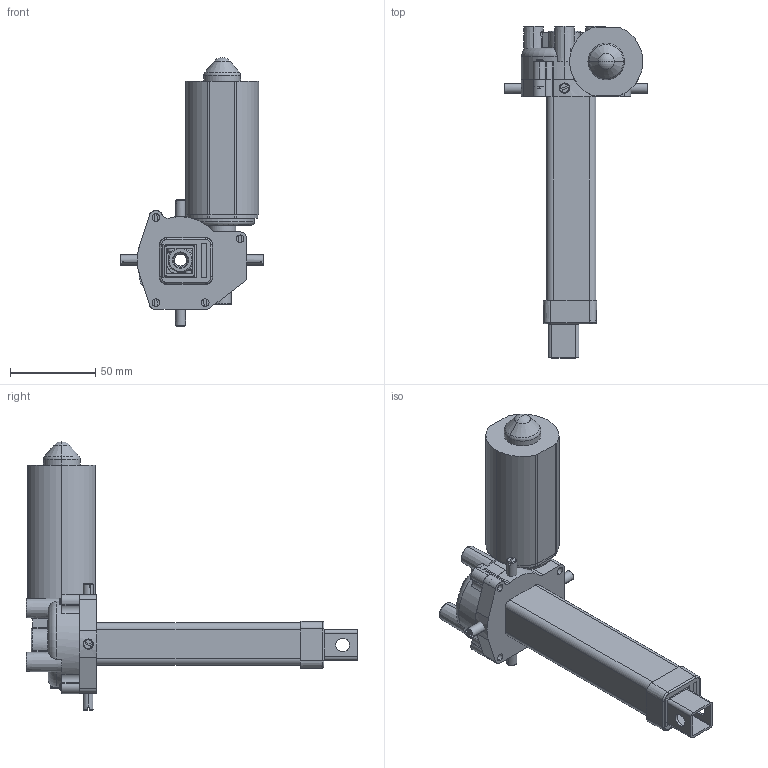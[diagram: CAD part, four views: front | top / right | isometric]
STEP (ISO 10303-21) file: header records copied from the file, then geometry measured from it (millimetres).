
FILE_DESCRIPTION (( 'STEP AP203' ), '1' );
FILE_NAME ('110 E.STEP', '2010-02-25T10:42:17', ( 'PC' ), ( 'PC' ), 'SwSTEP 2.0', 'SolidWorks 2007', '' );
FILE_SCHEMA (( 'CONFIG_CONTROL_DESIGN' ));
Length unit declared in the file: millimetre
Products named in the file (11): Schubstangenmutter_Standard; Gewindestift_Standard; Neigungsplatte_120er Rohr; Madenschraube DIN 913_M4x4; 110 E; 110_Standard; Schubrohr_Standard; Schubstange; Aussenrohr_Standard; Brille_Standard; DIN 84_M4 x 16
Assembly tree (17 placements, depth 3):
  110 E
    DIN 84_M4 x 16  x4
    Aussenrohr_Standard
    Neigungsplatte_120er Rohr
    Brille_Standard
    Gewindestift_Standard  x4
    110_Standard
    Schubstange
      Madenschraube DIN 913_M4x4  x2
      Schubrohr_Standard
      Schubstangenmutter_Standard
Bounding box: 84.5 x 195 x 158 mm (x, y, z)
Volume: 229925.6 mm3; surface area: 91022.3 mm2
Topology: 16 solids, 16 shells, 546 faces, 1341 edges, 827 vertices
Faces by surface type: plane 190, cylinder 169, cone 118, torus 51, sphere 11, bspline 7
Entity records: 15251 total; most frequent: CARTESIAN_POINT 3017, DIRECTION 2434, ORIENTED_EDGE 2210, EDGE_CURVE 1105, AXIS2_PLACEMENT_3D 967, VERTEX_POINT 687, CIRCLE 509, VECTOR 500
